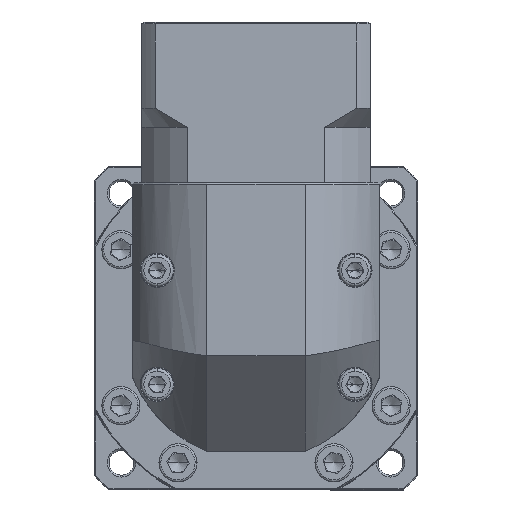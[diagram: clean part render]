
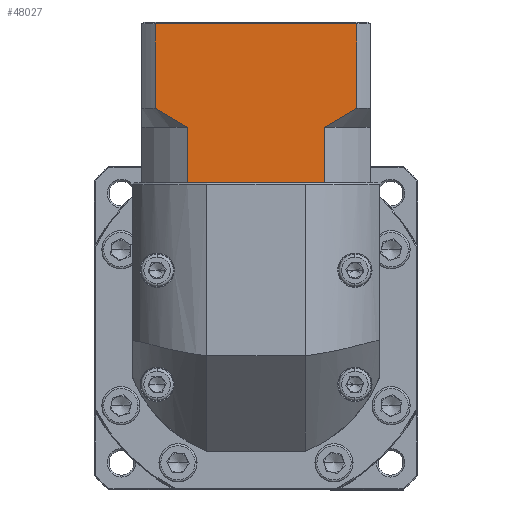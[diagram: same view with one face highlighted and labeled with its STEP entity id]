
A CAD part, top view. The second image highlights one B-rep face of the part: STEP entity #48027.
In plain terms, the highlighted planar face has unit normal (0, 0, 1).
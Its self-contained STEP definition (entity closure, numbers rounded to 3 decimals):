
#293 = VERTEX_POINT ( 'NONE', #76768 ) ;
#4001 = CARTESIAN_POINT ( 'NONE',  ( -101.472, 67.308, 36.845 ) ) ;
#4386 = CARTESIAN_POINT ( 'NONE',  ( -62.508, 67.311, 36.845 ) ) ;
#4485 = VERTEX_POINT ( 'NONE', #17696 ) ;
#4843 = CARTESIAN_POINT ( 'NONE',  ( -56.897, 70.659, 36.845 ) ) ;
#5475 = CARTESIAN_POINT ( 'NONE',  ( -99.029, 52.06, 36.845 ) ) ;
#6177 = LINE ( 'NONE', #17749, #78224 ) ;
#6991 = DIRECTION ( 'NONE',  ( 0., -1., 0. ) ) ;
#9355 = CARTESIAN_POINT ( 'NONE',  ( -108.45, 66.56, 36.845 ) ) ;
#11631 = LINE ( 'NONE', #15536, #29386 ) ;
#13743 = PLANE ( 'NONE',  #50788 ) ;
#15536 = CARTESIAN_POINT ( 'NONE',  ( -111.992, 52.06, 36.845 ) ) ;
#15661 = CARTESIAN_POINT ( 'NONE',  ( -63.964, 66.56, 36.845 ) ) ;
#17126 = CARTESIAN_POINT ( 'NONE',  ( -111.992, 93.76, 36.845 ) ) ;
#17499 = DIRECTION ( 'NONE',  ( 1., 0., 0. ) ) ;
#17696 = CARTESIAN_POINT ( 'NONE',  ( -55.535, 93.76, 36.845 ) ) ;
#17749 = CARTESIAN_POINT ( 'NONE',  ( -63.964, 66.56, 36.845 ) ) ;
#19824 = CARTESIAN_POINT ( 'NONE',  ( -55.535, 71.56, 36.845 ) ) ;
#25266 = CARTESIAN_POINT ( 'NONE',  ( -100.02, 66.56, 36.845 ) ) ;
#29386 = VECTOR ( 'NONE', #87588, 1000. ) ;
#30025 = ORIENTED_EDGE ( 'NONE', *, *, #55671, .T. ) ;
#34695 = CARTESIAN_POINT ( 'NONE',  ( -100.02, 66.56, 36.845 ) ) ;
#35124 = CARTESIAN_POINT ( 'NONE',  ( -105.711, 69.788, 36.845 ) ) ;
#35594 = CARTESIAN_POINT ( 'NONE',  ( -102.903, 68.112, 36.845 ) ) ;
#37989 = EDGE_CURVE ( 'NONE', #73800, #59455, #11631, .T. ) ;
#40559 = VERTEX_POINT ( 'NONE', #91249 ) ;
#44123 = LINE ( 'NONE', #78726, #53777 ) ;
#45087 = ORIENTED_EDGE ( 'NONE', *, *, #93655, .T. ) ;
#48027 = ADVANCED_FACE ( 'NONE', ( #131746 ), #13743, .F. ) ;
#50384 = VECTOR ( 'NONE', #76763, 1000. ) ;
#50589 = CARTESIAN_POINT ( 'NONE',  ( -55.535, 66.56, 36.845 ) ) ;
#50788 = AXIS2_PLACEMENT_3D ( 'NONE', #57859, #67765, #109111 ) ;
#52885 = LINE ( 'NONE', #55927, #131808 ) ;
#53777 = VECTOR ( 'NONE', #17499, 1000. ) ;
#53874 = EDGE_CURVE ( 'NONE', #293, #70259, #44123, .T. ) ;
#55412 = B_SPLINE_CURVE_WITH_KNOTS ( 'NONE', 3,
 ( #94954, #93625, #35124, #35594, #4001, #34695 ),
 .UNSPECIFIED., .F., .F.,
 ( 4, 2, 4 ),
 ( 0.052, 0.057, 0.062 ),
 .UNSPECIFIED. ) ;
#55671 = EDGE_CURVE ( 'NONE', #40559, #57846, #55412, .T. ) ;
#55927 = CARTESIAN_POINT ( 'NONE',  ( -111.992, 52.06, 36.845 ) ) ;
#55999 = VERTEX_POINT ( 'NONE', #69224 ) ;
#56686 = CARTESIAN_POINT ( 'NONE',  ( -61.082, 68.111, 36.845 ) ) ;
#57846 = VERTEX_POINT ( 'NONE', #25266 ) ;
#57859 = CARTESIAN_POINT ( 'NONE',  ( -111.992, 94.26, 36.845 ) ) ;
#58316 = ORIENTED_EDGE ( 'NONE', *, *, #72386, .F. ) ;
#59455 = VERTEX_POINT ( 'NONE', #59721 ) ;
#59721 = CARTESIAN_POINT ( 'NONE',  ( -63.964, 52.06, 36.845 ) ) ;
#59819 = LINE ( 'NONE', #17126, #93611 ) ;
#66389 = VECTOR ( 'NONE', #70112, 1000. ) ;
#67765 = DIRECTION ( 'NONE',  ( 0., 0., -1. ) ) ;
#67948 = EDGE_LOOP ( 'NONE', ( #119418, #118834, #58316, #30025, #69801, #87929, #45087, #116604, #96223, #85561 ) ) ;
#69224 = CARTESIAN_POINT ( 'NONE',  ( -108.45, 93.76, 36.845 ) ) ;
#69645 = EDGE_CURVE ( 'NONE', #83437, #92493, #84951, .T. ) ;
#69801 = ORIENTED_EDGE ( 'NONE', *, *, #78459, .F. ) ;
#70112 = DIRECTION ( 'NONE',  ( 0., 1., 0. ) ) ;
#70259 = VERTEX_POINT ( 'NONE', #5475 ) ;
#70923 = CARTESIAN_POINT ( 'NONE',  ( -63.964, 66.56, 36.845 ) ) ;
#71396 = EDGE_CURVE ( 'NONE', #4485, #92493, #129247, .T. ) ;
#72105 = DIRECTION ( 'NONE',  ( 0., -1., 0. ) ) ;
#72386 = EDGE_CURVE ( 'NONE', #40559, #55999, #77723, .T. ) ;
#73800 = VERTEX_POINT ( 'NONE', #124217 ) ;
#76430 = CARTESIAN_POINT ( 'NONE',  ( -58.277, 69.785, 36.845 ) ) ;
#76763 = DIRECTION ( 'NONE',  ( 0., 1., 0. ) ) ;
#76768 = CARTESIAN_POINT ( 'NONE',  ( -100.02, 52.06, 36.845 ) ) ;
#77197 = CARTESIAN_POINT ( 'NONE',  ( -100.02, 66.56, 36.845 ) ) ;
#77723 = LINE ( 'NONE', #9355, #66389 ) ;
#78224 = VECTOR ( 'NONE', #6991, 1000. ) ;
#78459 = EDGE_CURVE ( 'NONE', #293, #57846, #79278, .T. ) ;
#78726 = CARTESIAN_POINT ( 'NONE',  ( -111.992, 52.06, 36.845 ) ) ;
#78879 = EDGE_CURVE ( 'NONE', #4485, #55999, #59819, .T. ) ;
#79262 = EDGE_CURVE ( 'NONE', #83437, #59455, #6177, .T. ) ;
#79278 = LINE ( 'NONE', #77197, #50384 ) ;
#83437 = VERTEX_POINT ( 'NONE', #70923 ) ;
#84951 = B_SPLINE_CURVE_WITH_KNOTS ( 'NONE', 3,
 ( #15661, #4386, #56686, #76430, #4843, #87719 ),
 .UNSPECIFIED., .F., .F.,
 ( 4, 2, 4 ),
 ( 0.1, 0.104, 0.109 ),
 .UNSPECIFIED. ) ;
#85561 = ORIENTED_EDGE ( 'NONE', *, *, #69645, .T. ) ;
#87588 = DIRECTION ( 'NONE',  ( 1., 0., 0. ) ) ;
#87719 = CARTESIAN_POINT ( 'NONE',  ( -55.535, 71.56, 36.845 ) ) ;
#87929 = ORIENTED_EDGE ( 'NONE', *, *, #53874, .T. ) ;
#89617 = DIRECTION ( 'NONE',  ( -1., 0., 0. ) ) ;
#91249 = CARTESIAN_POINT ( 'NONE',  ( -108.45, 71.56, 36.845 ) ) ;
#92493 = VERTEX_POINT ( 'NONE', #19824 ) ;
#93611 = VECTOR ( 'NONE', #89617, 1000. ) ;
#93625 = CARTESIAN_POINT ( 'NONE',  ( -107.09, 70.661, 36.845 ) ) ;
#93655 = EDGE_CURVE ( 'NONE', #70259, #73800, #52885, .T. ) ;
#94954 = CARTESIAN_POINT ( 'NONE',  ( -108.45, 71.56, 36.845 ) ) ;
#96223 = ORIENTED_EDGE ( 'NONE', *, *, #79262, .F. ) ;
#109111 = DIRECTION ( 'NONE',  ( 0., 1., 0. ) ) ;
#116604 = ORIENTED_EDGE ( 'NONE', *, *, #37989, .T. ) ;
#117576 = DIRECTION ( 'NONE',  ( 1., 0., 0. ) ) ;
#118834 = ORIENTED_EDGE ( 'NONE', *, *, #78879, .T. ) ;
#119418 = ORIENTED_EDGE ( 'NONE', *, *, #71396, .F. ) ;
#124217 = CARTESIAN_POINT ( 'NONE',  ( -64.955, 52.06, 36.845 ) ) ;
#126004 = VECTOR ( 'NONE', #72105, 1000. ) ;
#129247 = LINE ( 'NONE', #50589, #126004 ) ;
#131746 = FACE_OUTER_BOUND ( 'NONE', #67948, .T. ) ;
#131808 = VECTOR ( 'NONE', #117576, 1000. ) ;
